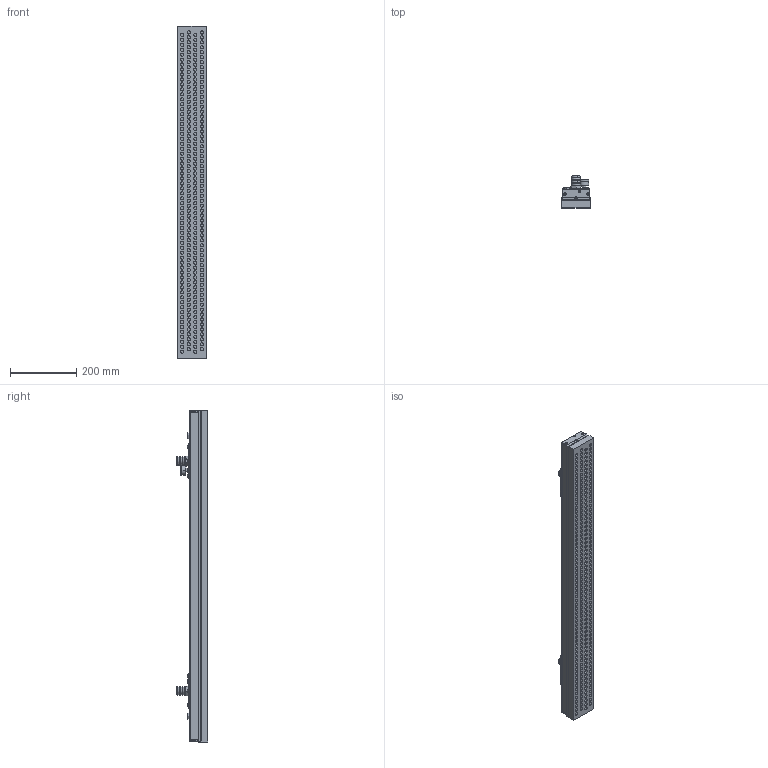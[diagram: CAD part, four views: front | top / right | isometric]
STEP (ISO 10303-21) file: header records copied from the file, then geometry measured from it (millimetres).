
FILE_DESCRIPTION (( 'STEP AP214' ), '1' );
FILE_NAME ('9671 100 015.STEP', '2012-09-10T05:28:48', ( 'cad' ), ( 'Microsoft' ), 'SwSTEP 2.0', 'SolidWorks 2012', '' );
FILE_SCHEMA (( 'AUTOMOTIVE_DESIGN' ));
Length unit declared in the file: millimetre
Products named in the file (1): 9671 100 015
Bounding box: 86 x 96.5 x 1006 mm (x, y, z)
Volume: 4229267.9 mm3; surface area: 533396.6 mm2
Topology: 1 solids, 1 shells, 1241 faces, 2632 edges, 1708 vertices
Faces by surface type: cylinder 640, plane 453, cone 64, sphere 32, torus 32, bspline 20
Entity records: 40019 total; most frequent: CARTESIAN_POINT 7054, DIRECTION 6512, ORIENTED_EDGE 5264, AXIS2_PLACEMENT_3D 2774, EDGE_CURVE 2632, VERTEX_POINT 1708, EDGE_LOOP 1560, CIRCLE 1552
